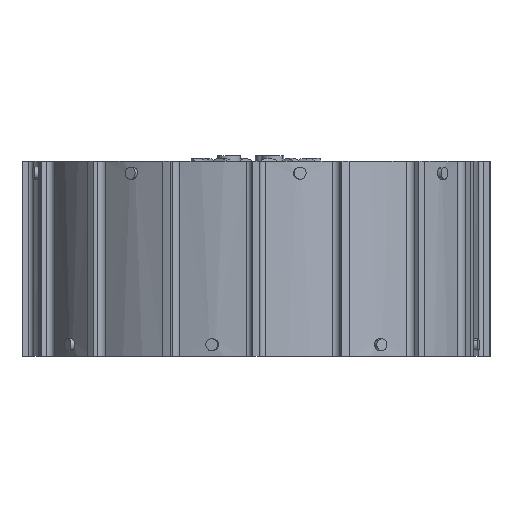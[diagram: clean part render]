
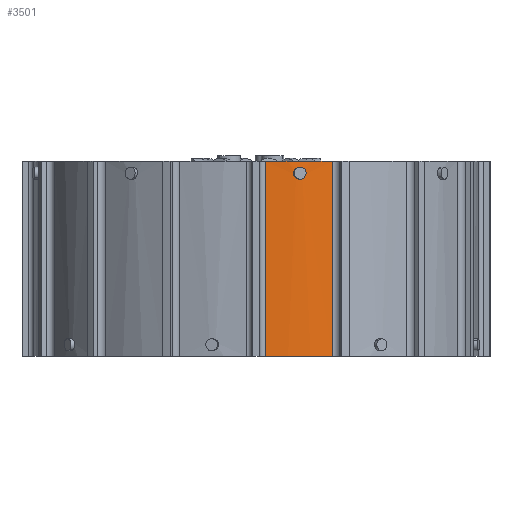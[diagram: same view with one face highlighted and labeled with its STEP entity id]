
A CAD part, front view. The second image highlights one B-rep face of the part: STEP entity #3501.
In plain terms, the highlighted cylindrical face has radius 57 mm (diameter 114 mm), a partial arc.
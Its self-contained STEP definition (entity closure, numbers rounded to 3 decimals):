
#34 = CARTESIAN_POINT ( 'NONE',  ( 0., 0., 50. ) ) ;
#118 = CARTESIAN_POINT ( 'NONE',  ( 11.613, -55.805, 47.874 ) ) ;
#136 = DIRECTION ( 'NONE',  ( 0., 0., 1. ) ) ;
#180 = CARTESIAN_POINT ( 'NONE',  ( 10.163, -56.087, 47.261 ) ) ;
#204 = AXIS2_PLACEMENT_3D ( 'NONE', #34, #6986, #830 ) ;
#242 = ORIENTED_EDGE ( 'NONE', *, *, #2539, .F. ) ;
#562 = EDGE_CURVE ( 'NONE', #6347, #2968, #10970, .T. ) ;
#761 = VECTOR ( 'NONE', #3327, 1000. ) ;
#830 = DIRECTION ( 'NONE',  ( -1., 0., 0. ) ) ;
#1076 = CARTESIAN_POINT ( 'NONE',  ( 10.516, -56.022, 46.201 ) ) ;
#1267 = EDGE_CURVE ( 'NONE', #3039, #7408, #5797, .T. ) ;
#1383 = VECTOR ( 'NONE', #8836, 1000. ) ;
#1439 = CARTESIAN_POINT ( 'NONE',  ( 10.138, -56.091, 47. ) ) ;
#1683 = CARTESIAN_POINT ( 'NONE',  ( 19.603, -53.523, 0. ) ) ;
#1721 = CARTESIAN_POINT ( 'NONE',  ( 11.722, -55.782, 46.2 ) ) ;
#2328 = LINE ( 'NONE', #5061, #761 ) ;
#2539 = EDGE_CURVE ( 'NONE', #4434, #2968, #4439, .T. ) ;
#2572 = CIRCLE ( 'NONE', #5766, 57. ) ;
#2831 = CARTESIAN_POINT ( 'NONE',  ( 10.99, -55.931, 46. ) ) ;
#2968 = VERTEX_POINT ( 'NONE', #4260 ) ;
#3039 = VERTEX_POINT ( 'NONE', #9266 ) ;
#3104 = EDGE_CURVE ( 'NONE', #7408, #3039, #4042, .T. ) ;
#3133 = CARTESIAN_POINT ( 'NONE',  ( 10.138, -56.091, 46.869 ) ) ;
#3327 = DIRECTION ( 'NONE',  ( 0., 0., 1. ) ) ;
#3414 = CARTESIAN_POINT ( 'NONE',  ( 10.518, -56.021, 47.801 ) ) ;
#3501 = ADVANCED_FACE ( 'NONE', ( #9199, #10105 ), #10898, .T. ) ;
#3883 = CARTESIAN_POINT ( 'NONE',  ( 11.249, -55.879, 46. ) ) ;
#4042 = B_SPLINE_CURVE_WITH_KNOTS ( 'NONE', 3,
 ( #5147, #12952, #8150, #4152, #9217, #9026, #118, #6942, #9980, #7530, #12540, #6274, #3414, #6468, #5348, #180, #9344, #6397 ),
 .UNSPECIFIED., .F., .F.,
 ( 4, 2, 2, 2, 2, 2, 2, 2, 4 ),
 ( 0., 0., 0.001, 0.001, 0.002, 0.002, 0.002, 0.003, 0.003 ),
 .UNSPECIFIED. ) ;
#4152 = CARTESIAN_POINT ( 'NONE',  ( 11.976, -55.728, 47.504 ) ) ;
#4260 = CARTESIAN_POINT ( 'NONE',  ( 19.603, -53.523, 50. ) ) ;
#4286 = EDGE_LOOP ( 'NONE', ( #12801, #8151 ) ) ;
#4434 = VERTEX_POINT ( 'NONE', #4957 ) ;
#4439 = CIRCLE ( 'NONE', #7622, 57. ) ;
#4822 = CARTESIAN_POINT ( 'NONE',  ( 10.261, -56.069, 46.497 ) ) ;
#4957 = CARTESIAN_POINT ( 'NONE',  ( 2.372, -56.951, 50. ) ) ;
#5061 = CARTESIAN_POINT ( 'NONE',  ( 2.372, -56.951, -5.639 ) ) ;
#5122 = CARTESIAN_POINT ( 'NONE',  ( 10.625, -56.001, 46.127 ) ) ;
#5147 = CARTESIAN_POINT ( 'NONE',  ( 12.099, -55.701, 47. ) ) ;
#5168 = CARTESIAN_POINT ( 'NONE',  ( 0., 0., 0. ) ) ;
#5321 = ORIENTED_EDGE ( 'NONE', *, *, #5498, .T. ) ;
#5348 = CARTESIAN_POINT ( 'NONE',  ( 10.262, -56.069, 47.504 ) ) ;
#5498 = EDGE_CURVE ( 'NONE', #12218, #6347, #2572, .T. ) ;
#5766 = AXIS2_PLACEMENT_3D ( 'NONE', #5168, #136, #12094 ) ;
#5797 = B_SPLINE_CURVE_WITH_KNOTS ( 'NONE', 3,
 ( #1439, #3133, #7756, #4822, #8887, #1076, #5122, #11768, #2831, #3883, #7937, #9187, #1721, #9857, #7872, #12118 ),
 .UNSPECIFIED., .F., .F.,
 ( 4, 2, 2, 2, 2, 2, 2, 4 ),
 ( 0.003, 0.004, 0.004, 0.004, 0.005, 0.005, 0.005, 0.006 ),
 .UNSPECIFIED. ) ;
#6274 = CARTESIAN_POINT ( 'NONE',  ( 10.626, -56.001, 47.874 ) ) ;
#6347 = VERTEX_POINT ( 'NONE', #1683 ) ;
#6397 = CARTESIAN_POINT ( 'NONE',  ( 10.138, -56.091, 47. ) ) ;
#6468 = CARTESIAN_POINT ( 'NONE',  ( 10.334, -56.055, 47.614 ) ) ;
#6942 = CARTESIAN_POINT ( 'NONE',  ( 11.377, -55.853, 47.974 ) ) ;
#6986 = DIRECTION ( 'NONE',  ( 0., 0., -1. ) ) ;
#7385 = EDGE_LOOP ( 'NONE', ( #8062, #242, #7790, #5321 ) ) ;
#7408 = VERTEX_POINT ( 'NONE', #12797 ) ;
#7530 = CARTESIAN_POINT ( 'NONE',  ( 10.993, -55.93, 48. ) ) ;
#7622 = AXIS2_PLACEMENT_3D ( 'NONE', #8542, #8230, #12538 ) ;
#7756 = CARTESIAN_POINT ( 'NONE',  ( 10.163, -56.087, 46.738 ) ) ;
#7790 = ORIENTED_EDGE ( 'NONE', *, *, #10235, .F. ) ;
#7872 = CARTESIAN_POINT ( 'NONE',  ( 12.099, -55.701, 46.736 ) ) ;
#7881 = CARTESIAN_POINT ( 'NONE',  ( 19.603, -53.523, -6.001 ) ) ;
#7937 = CARTESIAN_POINT ( 'NONE',  ( 11.376, -55.853, 46.026 ) ) ;
#8062 = ORIENTED_EDGE ( 'NONE', *, *, #562, .T. ) ;
#8150 = CARTESIAN_POINT ( 'NONE',  ( 12.074, -55.707, 47.262 ) ) ;
#8151 = ORIENTED_EDGE ( 'NONE', *, *, #1267, .F. ) ;
#8230 = DIRECTION ( 'NONE',  ( 0., 0., 1. ) ) ;
#8542 = CARTESIAN_POINT ( 'NONE',  ( 0., 0., 50. ) ) ;
#8836 = DIRECTION ( 'NONE',  ( 0., 0., 1. ) ) ;
#8887 = CARTESIAN_POINT ( 'NONE',  ( 10.335, -56.055, 46.386 ) ) ;
#9026 = CARTESIAN_POINT ( 'NONE',  ( 11.722, -55.782, 47.799 ) ) ;
#9187 = CARTESIAN_POINT ( 'NONE',  ( 11.613, -55.804, 46.126 ) ) ;
#9199 = FACE_OUTER_BOUND ( 'NONE', #7385, .T. ) ;
#9217 = CARTESIAN_POINT ( 'NONE',  ( 11.903, -55.743, 47.615 ) ) ;
#9266 = CARTESIAN_POINT ( 'NONE',  ( 10.138, -56.091, 47. ) ) ;
#9344 = CARTESIAN_POINT ( 'NONE',  ( 10.138, -56.091, 47.131 ) ) ;
#9471 = CARTESIAN_POINT ( 'NONE',  ( 2.372, -56.951, 0. ) ) ;
#9857 = CARTESIAN_POINT ( 'NONE',  ( 11.993, -55.724, 46.477 ) ) ;
#9980 = CARTESIAN_POINT ( 'NONE',  ( 11.248, -55.879, 48. ) ) ;
#10105 = FACE_BOUND ( 'NONE', #4286, .T. ) ;
#10235 = EDGE_CURVE ( 'NONE', #12218, #4434, #2328, .T. ) ;
#10898 = CYLINDRICAL_SURFACE ( 'NONE', #204, 57. ) ;
#10970 = LINE ( 'NONE', #7881, #1383 ) ;
#11768 = CARTESIAN_POINT ( 'NONE',  ( 10.862, -55.956, 46.026 ) ) ;
#12094 = DIRECTION ( 'NONE',  ( 1., 0., 0. ) ) ;
#12118 = CARTESIAN_POINT ( 'NONE',  ( 12.099, -55.701, 47. ) ) ;
#12218 = VERTEX_POINT ( 'NONE', #9471 ) ;
#12538 = DIRECTION ( 'NONE',  ( 1., 0., 0. ) ) ;
#12540 = CARTESIAN_POINT ( 'NONE',  ( 10.864, -55.955, 47.974 ) ) ;
#12797 = CARTESIAN_POINT ( 'NONE',  ( 12.099, -55.701, 47. ) ) ;
#12801 = ORIENTED_EDGE ( 'NONE', *, *, #3104, .F. ) ;
#12952 = CARTESIAN_POINT ( 'NONE',  ( 12.099, -55.701, 47.132 ) ) ;
